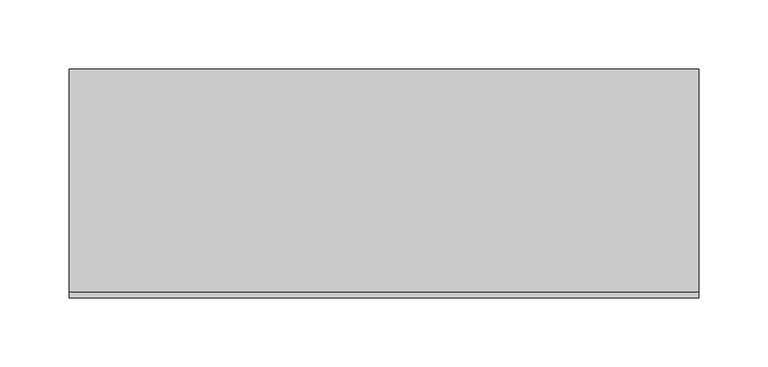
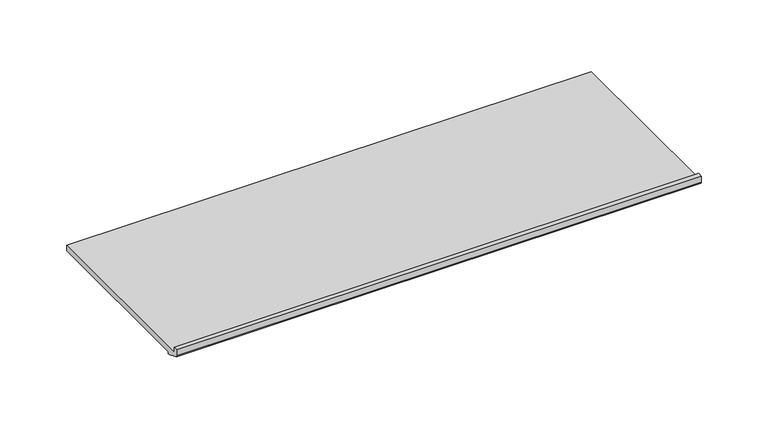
"""IFC4 building model written with IfcOpenShell, lengths in millimetres: furniture geometry, Geiger_GeigerOneCasegoods_Casegoods_AccessoryShelf : 17.875Wx 6.5Dx 0.375H."""

from ifc_helpers import new_model, si_unit, frame, origin, place, context, project, spatial, polyline, outline, extrude, source, transform, mapped, element, save


def furniture_46de3d16(model_context):
    return source(origin(), model_context, "Body", "SweptSolid", [
        extrude(outline(polyline([(4.0132, 4.9784), (165.1, 4.9784), (165.1, 0.0), (12.4968, 0.0), (12.4968, -1.524), (10.5156, -1.524), (1.0414, 2.3114), (0.2794, 3.0734), (0.0, 4.0894), (0.0, 9.525), (4.0132, 9.525), (4.0132, 4.9784)])), frame((0.0, 0.0, 0.0), z_axis=(1.0, 0.0, 0.0), x_axis=(0.0, 1.0, 0.0)), (0.0, 0.0, 1.0), 454.025),
    ])


if __name__ == "__main__":
    model = new_model("IFC4")
    model_context = context("Model", 3, world=origin())
    ifc_project = project(units=[si_unit("LENGTHUNIT", "METRE", prefix="MILLI")], contexts=[model_context])
    site = spatial("IfcSite", under=ifc_project)
    building = spatial("IfcBuilding", under=site)
    placement = place(None, origin())
    furniture_shape = furniture_46de3d16(model_context)
    element("IfcFurniture", 1, ObjectType="Geiger_GeigerOneCasegoods_Casegoods_AccessoryShelf : 17.875Wx 6.5Dx 0.375H", at=placement, inside=building, context=model_context, shape_type="MappedRepresentation", body=[
        mapped(furniture_shape, transform((0.0, 0.0, 0.0), x_axis=(1.0, 0.0, 0.0), y_axis=(0.0, 1.0, 0.0), z_axis=(0.0, 0.0, 1.0))),
    ])
    save(model, "model.ifc")
